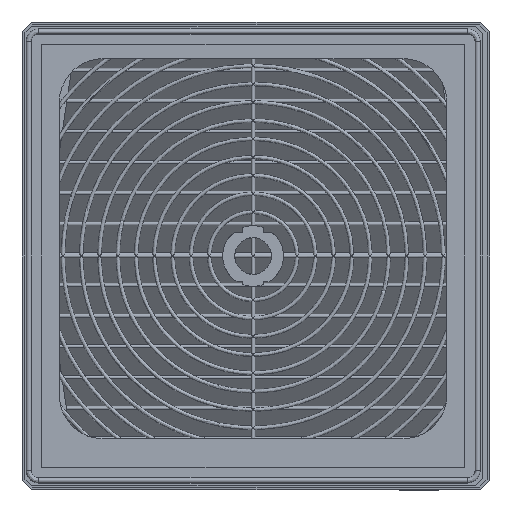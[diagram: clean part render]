
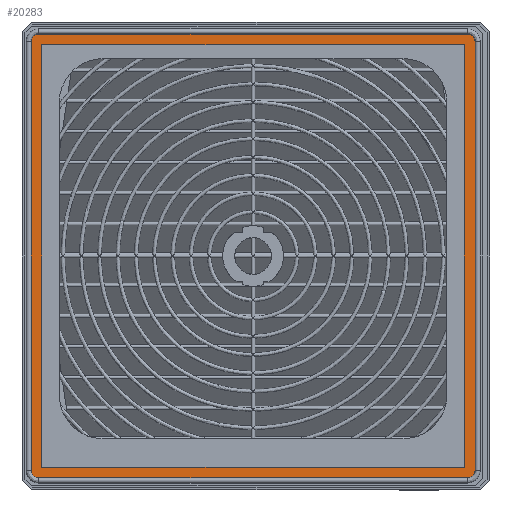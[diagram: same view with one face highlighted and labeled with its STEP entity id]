
A CAD part, front view. The second image highlights one B-rep face of the part: STEP entity #20283.
In plain terms, the highlighted planar face has unit normal (0, -1, 0).
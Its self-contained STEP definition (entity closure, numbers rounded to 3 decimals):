
#32 = LINE ( 'NONE', #30993, #1042 ) ;
#942 = VERTEX_POINT ( 'NONE', #15749 ) ;
#947 = CARTESIAN_POINT ( 'NONE',  ( -144.5, 30.5, -144.5 ) ) ;
#971 = AXIS2_PLACEMENT_3D ( 'NONE', #19379, #19236, #19192 ) ;
#1042 = VECTOR ( 'NONE', #30899, 1000. ) ;
#1431 = ORIENTED_EDGE ( 'NONE', *, *, #8787, .T. ) ;
#1478 = CIRCLE ( 'NONE', #11145, 5.25 ) ;
#1558 = DIRECTION ( 'NONE',  ( -1., 0., 0. ) ) ;
#1586 = ORIENTED_EDGE ( 'NONE', *, *, #37640, .F. ) ;
#1590 = CARTESIAN_POINT ( 'NONE',  ( 146.5, 30.5, 151.75 ) ) ;
#1607 = CARTESIAN_POINT ( 'NONE',  ( -157., 30.5, -144.5 ) ) ;
#2041 = LINE ( 'NONE', #4369, #16031 ) ;
#3195 = DIRECTION ( 'NONE',  ( 1., 0., 0. ) ) ;
#3828 = EDGE_LOOP ( 'NONE', ( #26783, #30247, #11288, #8884, #27355, #24140, #1586, #20806 ) ) ;
#4369 = CARTESIAN_POINT ( 'NONE',  ( 146.5, 30.5, 151.75 ) ) ;
#4632 = CARTESIAN_POINT ( 'NONE',  ( 151.75, 30.5, 146.5 ) ) ;
#4646 = LINE ( 'NONE', #1607, #17546 ) ;
#4907 = EDGE_CURVE ( 'NONE', #942, #21578, #13743, .T. ) ;
#4968 = LINE ( 'NONE', #5303, #5306 ) ;
#5203 = FACE_OUTER_BOUND ( 'NONE', #3828, .T. ) ;
#5231 = VERTEX_POINT ( 'NONE', #4632 ) ;
#5303 = CARTESIAN_POINT ( 'NONE',  ( 144.5, 30.5, -157. ) ) ;
#5306 = VECTOR ( 'NONE', #5343, 1000. ) ;
#5343 = DIRECTION ( 'NONE',  ( 0., 0., -1. ) ) ;
#6202 = DIRECTION ( 'NONE',  ( 0., 0., -1. ) ) ;
#6244 = DIRECTION ( 'NONE',  ( 0., 1., 0. ) ) ;
#6288 = CARTESIAN_POINT ( 'NONE',  ( 146.5, 30.5, -146.5 ) ) ;
#6927 = CIRCLE ( 'NONE', #36648, 5.25 ) ;
#8210 = AXIS2_PLACEMENT_3D ( 'NONE', #6288, #6244, #6202 ) ;
#8677 = EDGE_CURVE ( 'NONE', #21578, #16287, #4968, .T. ) ;
#8787 = EDGE_CURVE ( 'NONE', #16287, #28936, #4646, .T. ) ;
#8884 = ORIENTED_EDGE ( 'NONE', *, *, #37113, .F. ) ;
#9164 = CARTESIAN_POINT ( 'NONE',  ( -146.5, 30.5, -151.75 ) ) ;
#9653 = VERTEX_POINT ( 'NONE', #26348 ) ;
#10170 = VERTEX_POINT ( 'NONE', #11274 ) ;
#11046 = LINE ( 'NONE', #9164, #17257 ) ;
#11145 = AXIS2_PLACEMENT_3D ( 'NONE', #21980, #21929, #21888 ) ;
#11272 = EDGE_CURVE ( 'NONE', #39030, #5231, #6927, .T. ) ;
#11274 = CARTESIAN_POINT ( 'NONE',  ( -151.75, 30.5, -146.5 ) ) ;
#11288 = ORIENTED_EDGE ( 'NONE', *, *, #34501, .F. ) ;
#12155 = DIRECTION ( 'NONE',  ( 1., 0., 0. ) ) ;
#12259 = EDGE_CURVE ( 'NONE', #9653, #39030, #2041, .T. ) ;
#12540 = CARTESIAN_POINT ( 'NONE',  ( -157., 30.5, 144.5 ) ) ;
#13259 = VERTEX_POINT ( 'NONE', #29708 ) ;
#13258 = LINE ( 'NONE', #26431, #26722 ) ;
#13743 = LINE ( 'NONE', #12540, #22842 ) ;
#13852 = EDGE_CURVE ( 'NONE', #28936, #942, #13258, .T. ) ;
#15102 = EDGE_CURVE ( 'NONE', #13259, #35268, #11046, .T. ) ;
#15749 = CARTESIAN_POINT ( 'NONE',  ( -144.5, 30.5, 144.5 ) ) ;
#15798 = CIRCLE ( 'NONE', #8210, 5.25 ) ;
#16031 = VECTOR ( 'NONE', #3195, 1000. ) ;
#16287 = VERTEX_POINT ( 'NONE', #22546 ) ;
#16433 = VERTEX_POINT ( 'NONE', #25450 ) ;
#17257 = VECTOR ( 'NONE', #18192, 1000. ) ;
#17546 = VECTOR ( 'NONE', #1558, 1000. ) ;
#17686 = EDGE_LOOP ( 'NONE', ( #24654, #37554, #1431, #38947 ) ) ;
#18192 = DIRECTION ( 'NONE',  ( -1., 0., 0. ) ) ;
#19192 = DIRECTION ( 'NONE',  ( 0., 0., -1. ) ) ;
#19236 = DIRECTION ( 'NONE',  ( 0., -1., 0. ) ) ;
#19379 = CARTESIAN_POINT ( 'NONE',  ( -157., 30.5, -157. ) ) ;
#19450 = PLANE ( 'NONE',  #971 ) ;
#20120 = CARTESIAN_POINT ( 'NONE',  ( 151.75, 30.5, -146.5 ) ) ;
#20283 = ADVANCED_FACE ( 'NONE', ( #21043, #5203 ), #19450, .T. ) ;
#20806 = ORIENTED_EDGE ( 'NONE', *, *, #39894, .F. ) ;
#21043 = FACE_BOUND ( 'NONE', #17686, .T. ) ;
#21578 = VERTEX_POINT ( 'NONE', #34707 ) ;
#21888 = DIRECTION ( 'NONE',  ( 0., 0., -1. ) ) ;
#21929 = DIRECTION ( 'NONE',  ( 0., 1., 0. ) ) ;
#21980 = CARTESIAN_POINT ( 'NONE',  ( -146.5, 30.5, -146.5 ) ) ;
#22546 = CARTESIAN_POINT ( 'NONE',  ( 144.5, 30.5, -144.5 ) ) ;
#22842 = VECTOR ( 'NONE', #12155, 1000. ) ;
#24126 = EDGE_CURVE ( 'NONE', #35268, #10170, #1478, .T. ) ;
#24140 = ORIENTED_EDGE ( 'NONE', *, *, #12259, .F. ) ;
#24470 = CARTESIAN_POINT ( 'NONE',  ( 151.75, 30.5, 146.5 ) ) ;
#24654 = ORIENTED_EDGE ( 'NONE', *, *, #4907, .T. ) ;
#25450 = CARTESIAN_POINT ( 'NONE',  ( -151.75, 30.5, 146.5 ) ) ;
#26348 = CARTESIAN_POINT ( 'NONE',  ( -146.5, 30.5, 151.75 ) ) ;
#26431 = CARTESIAN_POINT ( 'NONE',  ( -144.5, 30.5, -157. ) ) ;
#26722 = VECTOR ( 'NONE', #38625, 1000. ) ;
#26783 = ORIENTED_EDGE ( 'NONE', *, *, #24126, .F. ) ;
#27355 = ORIENTED_EDGE ( 'NONE', *, *, #11272, .F. ) ;
#28936 = VERTEX_POINT ( 'NONE', #947 ) ;
#29708 = CARTESIAN_POINT ( 'NONE',  ( 146.5, 30.5, -151.75 ) ) ;
#29841 = DIRECTION ( 'NONE',  ( 0., 0., -1. ) ) ;
#29846 = DIRECTION ( 'NONE',  ( 0., 1., 0. ) ) ;
#29983 = CARTESIAN_POINT ( 'NONE',  ( 146.5, 30.5, 146.5 ) ) ;
#30247 = ORIENTED_EDGE ( 'NONE', *, *, #15102, .F. ) ;
#30694 = DIRECTION ( 'NONE',  ( 0., 0., -1. ) ) ;
#30732 = DIRECTION ( 'NONE',  ( 0., 1., 0. ) ) ;
#30789 = CARTESIAN_POINT ( 'NONE',  ( -146.5, 30.5, 146.5 ) ) ;
#30899 = DIRECTION ( 'NONE',  ( 0., 0., 1. ) ) ;
#30993 = CARTESIAN_POINT ( 'NONE',  ( -151.75, 30.5, 146.5 ) ) ;
#33585 = LINE ( 'NONE', #24470, #36073 ) ;
#34209 = CIRCLE ( 'NONE', #37951, 5.25 ) ;
#34501 = EDGE_CURVE ( 'NONE', #39491, #13259, #15798, .T. ) ;
#34707 = CARTESIAN_POINT ( 'NONE',  ( 144.5, 30.5, 144.5 ) ) ;
#35268 = VERTEX_POINT ( 'NONE', #35889 ) ;
#35889 = CARTESIAN_POINT ( 'NONE',  ( -146.5, 30.5, -151.75 ) ) ;
#36073 = VECTOR ( 'NONE', #37942, 1000. ) ;
#36648 = AXIS2_PLACEMENT_3D ( 'NONE', #29983, #29846, #29841 ) ;
#37113 = EDGE_CURVE ( 'NONE', #5231, #39491, #33585, .T. ) ;
#37554 = ORIENTED_EDGE ( 'NONE', *, *, #8677, .T. ) ;
#37640 = EDGE_CURVE ( 'NONE', #16433, #9653, #34209, .T. ) ;
#37942 = DIRECTION ( 'NONE',  ( 0., 0., -1. ) ) ;
#37951 = AXIS2_PLACEMENT_3D ( 'NONE', #30789, #30732, #30694 ) ;
#38625 = DIRECTION ( 'NONE',  ( 0., 0., 1. ) ) ;
#38947 = ORIENTED_EDGE ( 'NONE', *, *, #13852, .T. ) ;
#39030 = VERTEX_POINT ( 'NONE', #1590 ) ;
#39491 = VERTEX_POINT ( 'NONE', #20120 ) ;
#39894 = EDGE_CURVE ( 'NONE', #10170, #16433, #32, .T. ) ;
